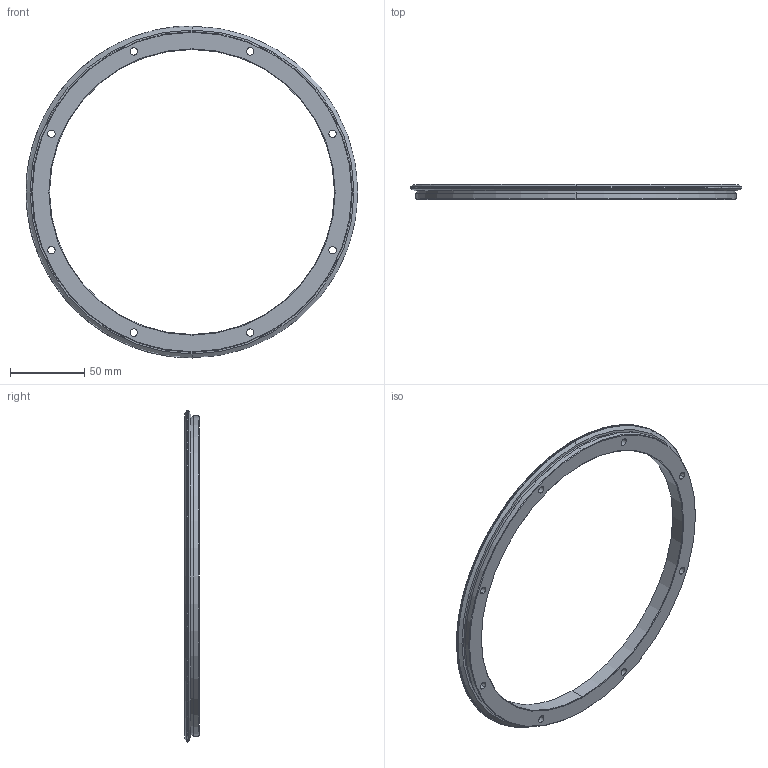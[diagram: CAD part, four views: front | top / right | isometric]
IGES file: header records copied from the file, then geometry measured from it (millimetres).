
Start section: 3D InterOp IGES (v. 2019 1.0.2), Spatial Corp. Copyright (c) 1999-2017.
Global section: file name: REV 223 R360.igs; native system: Spatial Corp.; preprocessor: 3D InterOp GENERIC/IGES 3.0; author: Noname; organization: Noname; date: 20220719.140133; units: millimetre
Bounding box: 223.4 x 10 x 223.4 mm (x, y, z)
Surface area: 37994.4 mm2 (no closed solid volume)
Topology: 0 solids, 0 shells, 60 faces, 276 edges, 274 vertices
Faces by surface type: revolution 48, extrusion 12
